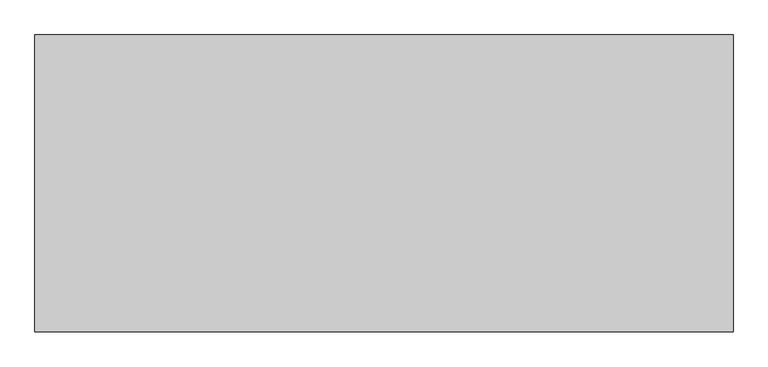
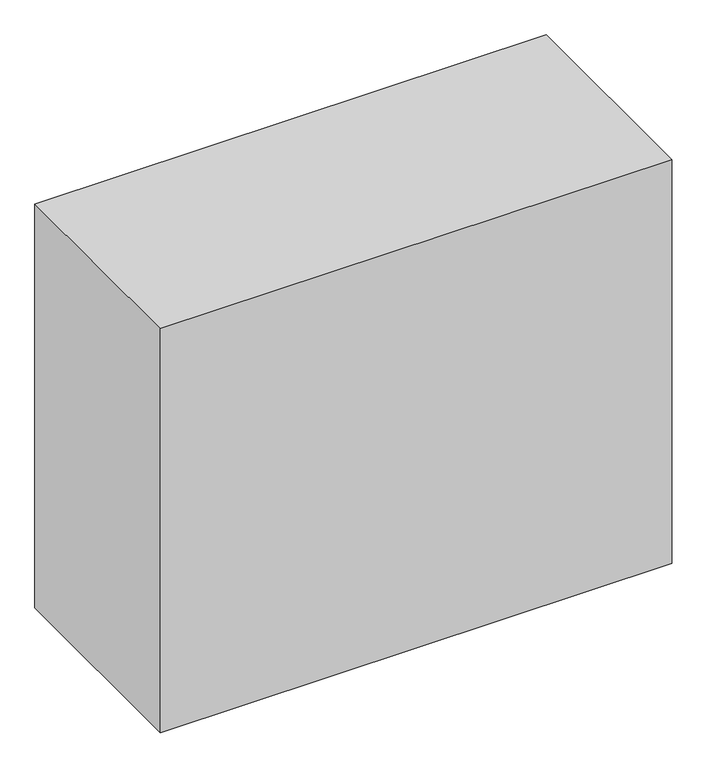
"""IFC4 building model written with IfcOpenShell, lengths in millimetres: proxy geometry, サービススペース : サービススペース."""

from ifc_helpers import new_model, si_unit, frame, origin, place, context, project, spatial, polyline, outline, extrude, source, transform, mapped, element, save


def specialty_equipment_f236d95e(model_context):
    return source(origin(), model_context, "Body", "SweptSolid", [
        extrude(outline(polyline([(2342.0, 995.0), (2342.0, -995.0), (-2342.0, -995.0), (-2342.0, 995.0), (2342.0, 995.0)])), frame((0.0, 0.0, -1956.0), z_axis=(0.0, 0.0, 1.0), x_axis=(1.0, 0.0, 0.0)), (0.0, 0.0, 1.0), 3912.0),
    ])


if __name__ == "__main__":
    model = new_model("IFC4")
    model_context = context("Model", 3, world=origin())
    ifc_project = project(units=[si_unit("LENGTHUNIT", "METRE", prefix="MILLI")], contexts=[model_context])
    site = spatial("IfcSite", under=ifc_project)
    building = spatial("IfcBuilding", under=site)
    placement = place(None, origin())
    specialty_equipment_shape = specialty_equipment_f236d95e(model_context)
    element("IfcBuildingElementProxy", 1, Name="サービススペース : サービススペース", ObjectType="サービススペース : サービススペース", at=placement, inside=building, context=model_context, shape_type="MappedRepresentation", body=[
        mapped(specialty_equipment_shape, transform((0.0, 0.0, 0.0), x_axis=(1.0, 0.0, 0.0), y_axis=(0.0, 1.0, 0.0), z_axis=(0.0, 0.0, 1.0))),
    ])
    save(model, "model.ifc")
